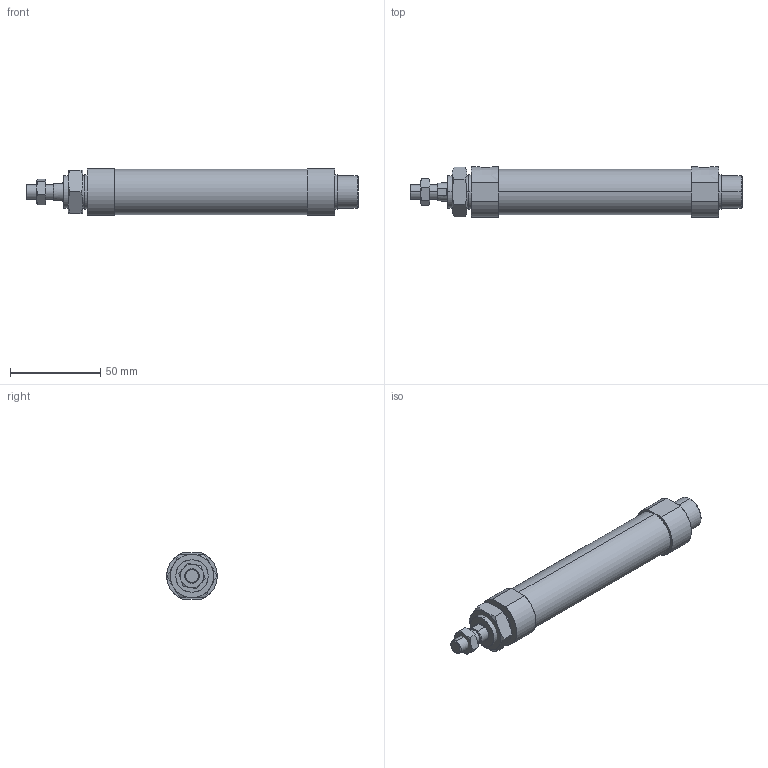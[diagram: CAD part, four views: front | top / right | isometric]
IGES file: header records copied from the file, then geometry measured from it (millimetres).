
Start section: SolidWorks IGES file using analytic representation for surfaces
Global section: file name: C:\Users\Toshiba\Desktop\J#2-20-75-N.IGS; native system: SolidWorks 2014; preprocessor: SolidWorks 2014; author: Toshiba; date: 160308.150009; units: millimetre
Bounding box: 184 x 28 x 26 mm (x, y, z)
Surface area: 17332.3 mm2 (no closed solid volume)
Topology: 0 solids, 0 shells, 92 faces, 1620 edges, 1620 vertices
Faces by surface type: bspline 60, revolution 32
